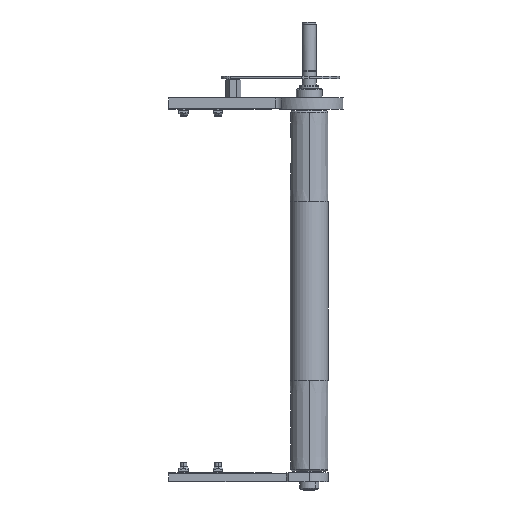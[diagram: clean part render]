
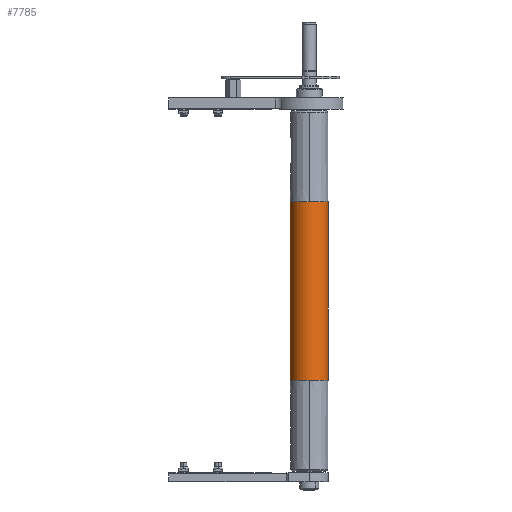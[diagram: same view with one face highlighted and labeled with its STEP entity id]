
A CAD part, front view. The second image highlights one B-rep face of the part: STEP entity #7785.
In plain terms, the highlighted cylindrical face has radius 25 mm (diameter 50 mm), a partial arc.
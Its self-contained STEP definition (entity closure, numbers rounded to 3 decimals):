
#114 = CIRCLE ( 'NONE', #7223, 25. ) ;
#133 = CIRCLE ( 'NONE', #11007, 25. ) ;
#165 = CARTESIAN_POINT ( 'NONE',  ( 117.5, 0., 0. ) ) ;
#729 = EDGE_CURVE ( 'NONE', #13106, #13985, #133, .T. ) ;
#746 = EDGE_LOOP ( 'NONE', ( #14998, #3957, #7192, #9520, #11402, #13379 ) ) ;
#844 = DIRECTION ( 'NONE',  ( -1., 0., 0. ) ) ;
#1417 = VECTOR ( 'NONE', #8296, 1000. ) ;
#1501 = VERTEX_POINT ( 'NONE', #12455 ) ;
#2003 = CARTESIAN_POINT ( 'NONE',  ( 235., 0., -25. ) ) ;
#2643 = CIRCLE ( 'NONE', #10480, 25. ) ;
#2910 = EDGE_CURVE ( 'NONE', #7536, #14621, #13486, .T. ) ;
#2939 = CARTESIAN_POINT ( 'NONE',  ( -117.5, 0., 25. ) ) ;
#3754 = DIRECTION ( 'NONE',  ( 0., 0., 1. ) ) ;
#3957 = ORIENTED_EDGE ( 'NONE', *, *, #2910, .T. ) ;
#4309 = VECTOR ( 'NONE', #15536, 1000. ) ;
#5436 = FACE_OUTER_BOUND ( 'NONE', #746, .T. ) ;
#5878 = DIRECTION ( 'NONE',  ( 0., -1., 0. ) ) ;
#6259 = DIRECTION ( 'NONE',  ( -1., 0., 0. ) ) ;
#6500 = CARTESIAN_POINT ( 'NONE',  ( 235., 0., 25. ) ) ;
#6941 = CARTESIAN_POINT ( 'NONE',  ( -117.5, 25., 0. ) ) ;
#7192 = ORIENTED_EDGE ( 'NONE', *, *, #15283, .T. ) ;
#7223 = AXIS2_PLACEMENT_3D ( 'NONE', #10549, #8139, #10610 ) ;
#7335 = CARTESIAN_POINT ( 'NONE',  ( 117.5, 0., -25. ) ) ;
#7502 = LINE ( 'NONE', #6500, #4309 ) ;
#7536 = VERTEX_POINT ( 'NONE', #12355 ) ;
#7767 = DIRECTION ( 'NONE',  ( 0., -1., 0. ) ) ;
#7785 = ADVANCED_FACE ( 'NONE', ( #5436 ), #15334, .T. ) ;
#8034 = EDGE_CURVE ( 'NONE', #15537, #7536, #2643, .T. ) ;
#8139 = DIRECTION ( 'NONE',  ( -1., 0., 0. ) ) ;
#8296 = DIRECTION ( 'NONE',  ( -1., 0., 0. ) ) ;
#8865 = CARTESIAN_POINT ( 'NONE',  ( -117.5, 0., 0. ) ) ;
#9520 = ORIENTED_EDGE ( 'NONE', *, *, #12233, .F. ) ;
#10480 = AXIS2_PLACEMENT_3D ( 'NONE', #13641, #844, #5878 ) ;
#10549 = CARTESIAN_POINT ( 'NONE',  ( -117.5, 0., 0. ) ) ;
#10610 = DIRECTION ( 'NONE',  ( 0., -1., 0. ) ) ;
#10852 = AXIS2_PLACEMENT_3D ( 'NONE', #165, #15498, #7767 ) ;
#11007 = AXIS2_PLACEMENT_3D ( 'NONE', #8865, #6259, #15310 ) ;
#11378 = CARTESIAN_POINT ( 'NONE',  ( 117.5, 0., 25. ) ) ;
#11402 = ORIENTED_EDGE ( 'NONE', *, *, #729, .F. ) ;
#11644 = DIRECTION ( 'NONE',  ( -1., 0., 0. ) ) ;
#11768 = AXIS2_PLACEMENT_3D ( 'NONE', #16594, #11644, #3754 ) ;
#11962 = EDGE_CURVE ( 'NONE', #15537, #13106, #7502, .T. ) ;
#12233 = EDGE_CURVE ( 'NONE', #13985, #1501, #114, .T. ) ;
#12355 = CARTESIAN_POINT ( 'NONE',  ( 117.5, 25., 0. ) ) ;
#12455 = CARTESIAN_POINT ( 'NONE',  ( -117.5, 0., -25. ) ) ;
#13106 = VERTEX_POINT ( 'NONE', #2939 ) ;
#13379 = ORIENTED_EDGE ( 'NONE', *, *, #11962, .F. ) ;
#13486 = CIRCLE ( 'NONE', #10852, 25. ) ;
#13641 = CARTESIAN_POINT ( 'NONE',  ( 117.5, 0., 0. ) ) ;
#13985 = VERTEX_POINT ( 'NONE', #6941 ) ;
#14621 = VERTEX_POINT ( 'NONE', #7335 ) ;
#14998 = ORIENTED_EDGE ( 'NONE', *, *, #8034, .T. ) ;
#15283 = EDGE_CURVE ( 'NONE', #14621, #1501, #15515, .T. ) ;
#15310 = DIRECTION ( 'NONE',  ( 0., -1., 0. ) ) ;
#15334 = CYLINDRICAL_SURFACE ( 'NONE', #11768, 25. ) ;
#15498 = DIRECTION ( 'NONE',  ( -1., 0., 0. ) ) ;
#15515 = LINE ( 'NONE', #2003, #1417 ) ;
#15536 = DIRECTION ( 'NONE',  ( -1., 0., 0. ) ) ;
#15537 = VERTEX_POINT ( 'NONE', #11378 ) ;
#16594 = CARTESIAN_POINT ( 'NONE',  ( 235., 0., 0. ) ) ;
